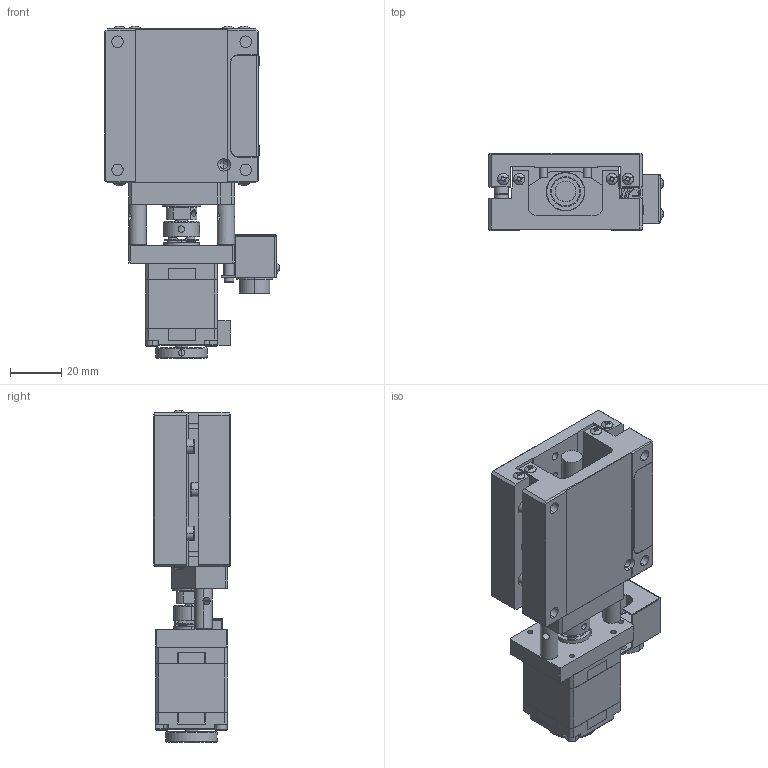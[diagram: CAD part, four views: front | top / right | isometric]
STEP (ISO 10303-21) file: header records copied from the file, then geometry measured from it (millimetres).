
FILE_DESCRIPTION (( 'STEP AP214' ), '1' );
FILE_NAME ('TXS6020B-L1-M28L.STEP', '2025-01-03T09:15:10', ( '' ), ( '' ), 'SwSTEP 2.0', 'SolidWorks 2020', '' );
FILE_SCHEMA (( 'AUTOMOTIVE_DESIGN' ));
Length unit declared in the file: millimetre
Products named in the file (1): TXS6020B-L1-M28L
Bounding box: 68.13 x 30 x 129.43 mm (x, y, z)
Volume: 114468.2 mm3; surface area: 60020 mm2
Topology: 82 solids, 82 shells, 1929 faces, 5003 edges, 3169 vertices
Faces by surface type: plane 943, cylinder 631, cone 175, torus 80, bspline 68, sphere 32
Entity records: 64410 total; most frequent: CARTESIAN_POINT 16801, DIRECTION 9743, ORIENTED_EDGE 9684, EDGE_CURVE 4842, AXIS2_PLACEMENT_3D 3623, VERTEX_POINT 3169, LINE 2497, VECTOR 2497
